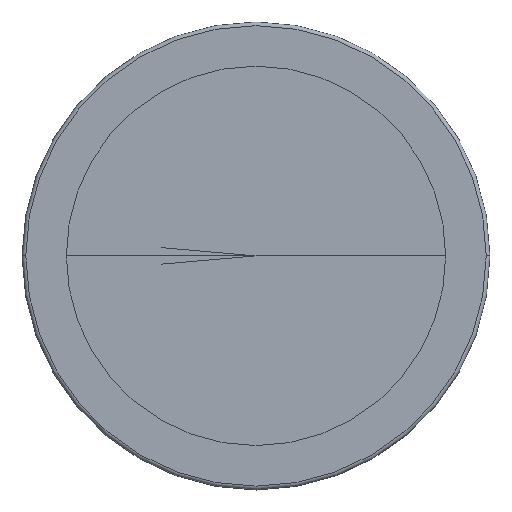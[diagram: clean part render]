
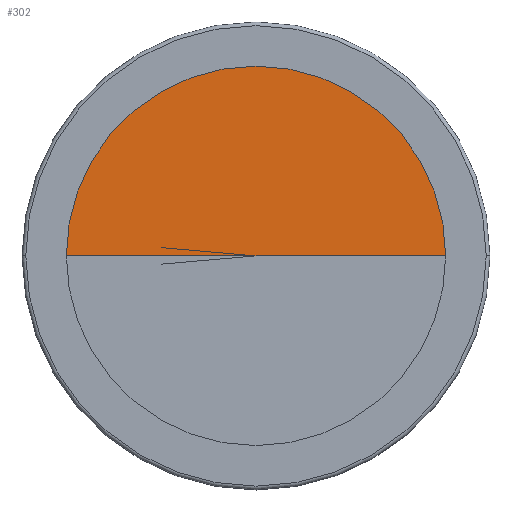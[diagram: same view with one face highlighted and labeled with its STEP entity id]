
A CAD part, top view. The second image highlights one B-rep face of the part: STEP entity #302.
In plain terms, the highlighted face is a revolution surface.
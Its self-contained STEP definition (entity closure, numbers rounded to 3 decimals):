
#1=DIRECTION('',(1.,0.,0.));
#2=VECTOR('',#1,2.565);
#3=CARTESIAN_POINT('',(0.,0.,2.493));
#4=LINE('',#3,#2);
#5=DIRECTION('',(-1.,0.,0.));
#6=VECTOR('',#5,2.565);
#7=CARTESIAN_POINT('',(0.,0.,2.493));
#8=LINE('',#7,#6);
#14=CARTESIAN_POINT('',(0.,0.,2.493));
#15=DIRECTION('',(0.,0.,1.));
#16=DIRECTION('',(1.,0.,0.));
#17=AXIS2_PLACEMENT_3D('',#14,#15,#16);
#253=CARTESIAN_POINT('',(0.,0.,2.493));
#254=CARTESIAN_POINT('',(2.565,0.,2.493));
#255=VERTEX_POINT('',#253);
#256=VERTEX_POINT('',#254);
#257=CARTESIAN_POINT('',(-2.565,0.,2.493));
#258=VERTEX_POINT('',#257);
#284=CARTESIAN_POINT('',(0.,0.,2.493));
#285=CARTESIAN_POINT('',(0.855,0.,2.493));
#286=CARTESIAN_POINT('',(1.727,0.,2.493));
#287=CARTESIAN_POINT('',(2.599,0.,2.493));
#288=CARTESIAN_POINT('',(2.616,0.,2.493));
#290=CARTESIAN_POINT('',(0.,0.,-0.125));
#291=DIRECTION('',(0.,0.,1.));
#292=AXIS1_PLACEMENT('',#290,#291);
#293=SURFACE_OF_REVOLUTION('',#289,#292);
#295=ORIENTED_EDGE('',*,*,#294,.F.);
#297=ORIENTED_EDGE('',*,*,#296,.T.);
#299=ORIENTED_EDGE('',*,*,#298,.F.);
#300=EDGE_LOOP('',(#295,#297,#299));
#301=FACE_OUTER_BOUND('',#300,.F.);
#302=ADVANCED_FACE('',(#301),#293,.F.);
#18=CIRCLE('',#17,2.565);
#289=B_SPLINE_CURVE_WITH_KNOTS('',3,(#284,#285,#286,#287,#288),.UNSPECIFIED.,
.F.,.F.,(4,1,4),(0.,0.98,1.),.UNSPECIFIED.);
#294=EDGE_CURVE('',#255,#256,#4,.T.);
#296=EDGE_CURVE('',#255,#258,#8,.T.);
#298=EDGE_CURVE('',#256,#258,#18,.T.);
